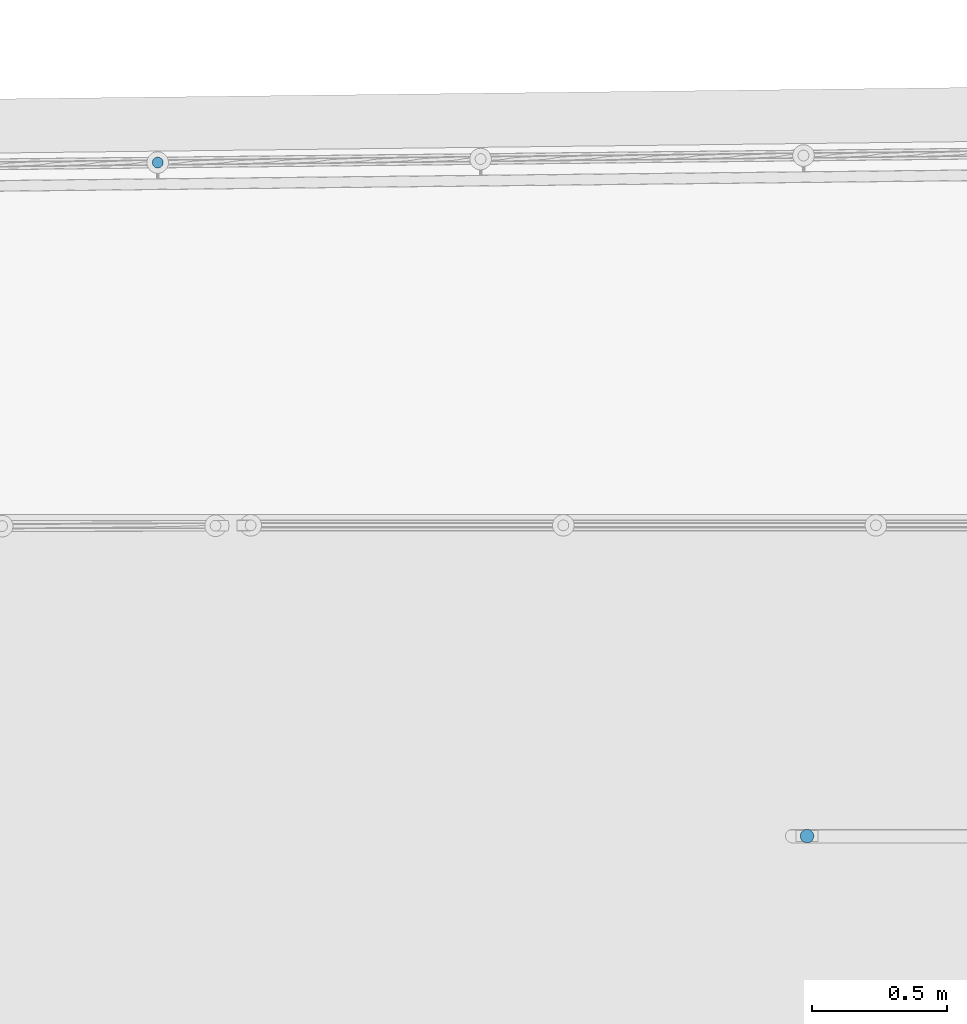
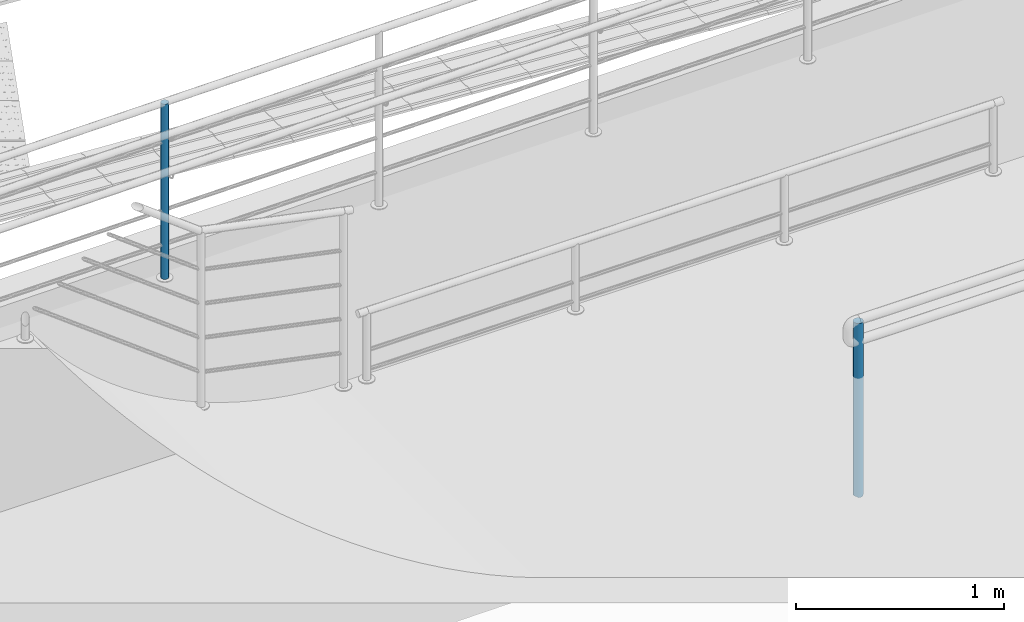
# One storey, part 35 of 237: 2 building element parts, 2 elements without a shape of their own.
"""IFC2X3 building model written with IfcOpenShell, lengths in millimetres."""

import ifcopenshell
import ifcopenshell.guid

model = None  # the IFC model being written
_history = None  # IfcOwnerHistory: only IFC2X3 demands one
_inside = {}  # id of a spatial element -> (the spatial element, [elements in it])
_under = {}  # id of a project, library or spatial element -> (it, [spatial elements below it])
_declared = {}  # id of a project -> (the project, [libraries it declares])
_typed = {}  # id of a type object -> (the type object, [elements of that type])
_made_of = {}  # id of a material, layer set ... -> (it, [elements and type objects made of it])


def new_model(schema):
    """Start an empty IFC model of exactly this schema.

    Asked for "IFC4X3", IfcOpenShell would pick the latest addendum, in which some entities
    have other attributes; the version numbers below select the first issue.
    IFC2X3 requires an IfcOwnerHistory on every rooted entity: one is made here for all.
    """
    global model, _history
    if schema == "IFC4X3":
        model = ifcopenshell.file(schema_version=(4, 3, 0, 0))
    else:
        model = ifcopenshell.file(schema=schema)
    _inside.clear()
    _under.clear()
    _declared.clear()
    _typed.clear()
    _made_of.clear()
    _history = None
    if model.schema == "IFC2X3":
        org = make("IfcOrganization", Name="unknown")
        user = make(
            "IfcPersonAndOrganization",
            ThePerson=make("IfcPerson", FamilyName="unknown"),
            TheOrganization=org,
        )
        app = make(
            "IfcApplication",
            ApplicationDeveloper=org,
            Version="unknown",
            ApplicationFullName="unknown",
            ApplicationIdentifier="unknown",
        )
        _history = make(
            "IfcOwnerHistory",
            OwningUser=user,
            OwningApplication=app,
            ChangeAction="ADDED",
            CreationDate=0,
        )
    return model


def make(cls, **values):
    """One entity of the class cls with the attributes given. An attribute that is None is left unset."""
    return model.create_entity(
        cls, **{name: value for name, value in values.items() if value is not None}
    )


def entity(cls, *values):
    """Any entity or typed value of the class cls, its attributes in the order of the schema. None: left unset."""
    e = model.create_entity(cls)
    for i, value in enumerate(values):
        if value is not None:
            e[i] = value
    return e


def rooted(cls, **values):
    """An entity with a GlobalId (a new one), such as an element, a storey or a relation."""
    return make(cls, GlobalId=ifcopenshell.guid.new(), OwnerHistory=_history, **values)


def si_unit(unit_type, name, prefix=None):
    """IfcSIUnit, for example si_unit("LENGTHUNIT", "METRE", prefix="MILLI")."""
    return make("IfcSIUnit", UnitType=unit_type, Prefix=prefix, Name=name)


def converted_unit(unit_type, name, factor, base, dimensions=None, offset=None):
    """IfcConversionBasedUnit, such as the inch: factor (a typed value) times the base unit."""
    return make(
        "IfcConversionBasedUnit"
        if offset is None
        else "IfcConversionBasedUnitWithOffset",
        ConversionOffset=offset,
        Dimensions=None
        if dimensions is None
        else entity("IfcDimensionalExponents", *dimensions),
        UnitType=unit_type,
        Name=name,
        ConversionFactor=make(
            "IfcMeasureWithUnit", ValueComponent=factor, UnitComponent=base
        ),
    )


def derived_unit(unit_type, elements):
    """IfcDerivedUnit: a product of units, each with its exponent."""
    return make(
        "IfcDerivedUnit",
        Elements=[
            make("IfcDerivedUnitElement", Unit=unit, Exponent=power)
            for unit, power in elements
        ],
        UnitType=unit_type,
    )


def money_unit(currency):
    """IfcMonetaryUnit."""
    return make("IfcMonetaryUnit", Currency=currency)


def assignment(units):
    """IfcUnitAssignment: the units of a project."""
    return None if units is None else make("IfcUnitAssignment", Units=units)


def point(xyz):
    """IfcCartesianPoint."""
    return None if xyz is None else make("IfcCartesianPoint", Coordinates=xyz)


def direction(xyz):
    """IfcDirection."""
    return None if xyz is None else make("IfcDirection", DirectionRatios=xyz)


def frame(location, z_axis=None, x_axis=None):
    """IfcAxis2Placement3D, a coordinate frame: its origin and axes. An axis left out is left unset."""
    return make(
        "IfcAxis2Placement3D",
        Location=point(location),
        Axis=direction(z_axis),
        RefDirection=direction(x_axis),
    )


def origin_with_axes():
    """The frame at (0, 0, 0) with the z axis (0, 0, 1) and the x axis (1, 0, 0) written out."""
    return frame((0.0, 0.0, 0.0), z_axis=(0.0, 0.0, 1.0), x_axis=(1.0, 0.0, 0.0))


def place(relative_to, where):
    """IfcLocalPlacement: puts the frame where relative to a parent placement (None: the world)."""
    return make(
        "IfcLocalPlacement", PlacementRelTo=relative_to, RelativePlacement=where
    )


def context(
    kind, dimensions, precision=None, world=None, true_north=None, identifier=None
):
    """IfcGeometricRepresentationContext, for example the 3D "Model" context."""
    return make(
        "IfcGeometricRepresentationContext",
        ContextIdentifier=identifier,
        ContextType=kind,
        CoordinateSpaceDimension=dimensions,
        Precision=precision,
        WorldCoordinateSystem=world,
        TrueNorth=true_north,
    )


def subcontext(parent, identifier, kind, view, scale=None):
    """IfcGeometricRepresentationSubContext, for example "Body" below "Model"."""
    return make(
        "IfcGeometricRepresentationSubContext",
        ContextIdentifier=identifier,
        ContextType=kind,
        ParentContext=parent,
        TargetScale=scale,
        TargetView=view,
    )


def project(units=None, contexts=None):
    """IfcProject with its units and contexts."""
    return rooted(
        "IfcProject",
        Name="project",
        RepresentationContexts=contexts,
        UnitsInContext=assignment(units),
    )


def spatial(cls, under=None, at=None, **own):
    """A site, building, storey or space (cls), placed at a placement, below another one or the project."""
    s = rooted(cls, ObjectPlacement=at, **own)
    if under is not None:
        _under.setdefault(under.id(), (under, []))[1].append(s)
    return s


def faces_of(points, faces, orient=None, outer=None):
    """IfcFace entities. A face is a list of loops; a loop is a list of indices into points, from 0.

    orient and outer hold one flag for each loop. By default every Orientation is true, the
    first loop of a face is its IfcFaceOuterBound and the others are IfcFaceBound.
    """
    made = []
    for i, loops in enumerate(faces):
        bounds = []
        for j, loop in enumerate(loops):
            is_outer = j == 0 if outer is None else outer[i][j]
            bounds.append(
                make(
                    "IfcFaceOuterBound" if is_outer else "IfcFaceBound",
                    Bound=make("IfcPolyLoop", Polygon=[points[k] for k in loop]),
                    Orientation=True if orient is None else orient[i][j],
                )
            )
        made.append(make("IfcFace", Bounds=bounds))
    return made


def faceted_brep(points, faces, orient=None, outer=None, voids=None):
    """IfcFacetedBrep: a solid bounded by flat faces; with voids (closed shells), ...WithVoids."""
    shared = [point(p) for p in points]
    hull = make("IfcClosedShell", CfsFaces=faces_of(shared, faces, orient, outer))
    if voids is None:
        return make("IfcFacetedBrep", Outer=hull)
    return make(
        "IfcFacetedBrepWithVoids",
        Outer=hull,
        Voids=[
            make(cls, CfsFaces=faces_of(shared, fs, o, b)) for cls, fs, o, b in voids
        ],
    )


def shape(context_of_items, identifier, shape_type, items):
    """IfcShapeRepresentation: the items that make up one representation, for example the "Body"."""
    return make(
        "IfcShapeRepresentation",
        ContextOfItems=context_of_items,
        RepresentationIdentifier=identifier,
        RepresentationType=shape_type,
        Items=items,
    )


def material(Name=None, Category=None):
    """IfcMaterial."""
    return make("IfcMaterial", Name=Name, Category=Category)


def made_of(thing, what):
    """Note that an element or type object is made of a material, layer set ...; save() writes the relation."""
    if what is not None:
        _made_of.setdefault(what.id(), (what, []))[1].append(thing)
    return thing


def type_object(cls, material=None, **own):
    """A type object (cls), such as IfcWallType, which elements share."""
    return made_of(rooted(cls, **own), material)


def element(
    cls,
    number,
    at=None,
    inside=None,
    cuts=None,
    type_object=None,
    material=None,
    context=None,
    identifier="Body",
    shape_type=None,
    held_by="IfcProductDefinitionShape",
    body=None,
    shapes=None,
    **own,
):
    """One element of the class cls, such as IfcWall. Its Tag is "e" and its number.

    at: its placement. inside: the storey or other place that contains it. cuts: it is an
    opening in that element (IfcRelVoidsElement). A single representation is given by context,
    identifier, shape_type and body (its items); several are given by shapes. held_by: the class
    of the entity that holds the representations. save() writes the other relations.
    """
    e = rooted(cls, Tag="e%d" % number, ObjectPlacement=at, **own)
    if body is not None:
        shapes = [shape(context, identifier, shape_type, body)]
    if shapes is not None:
        e.Representation = make(held_by, Representations=shapes)
    if inside is not None:
        _inside.setdefault(inside.id(), (inside, []))[1].append(e)
    if cuts is not None:
        rooted(
            "IfcRelVoidsElement", RelatingBuildingElement=cuts, RelatedOpeningElement=e
        )
    if type_object is not None:
        _typed.setdefault(type_object.id(), (type_object, []))[1].append(e)
    return made_of(e, material)


def aggregate(whole, parts):
    """IfcRelAggregates: a whole, such as a stair, and the parts it consists of."""
    return rooted("IfcRelAggregates", RelatingObject=whole, RelatedObjects=parts)


def save(model, path):
    """Write the relations noted so far, then the file.

    IfcRelAggregates (storeys below a building ...), IfcRelContainedInSpatialStructure (elements
    in a storey), IfcRelDefinesByType, IfcRelAssociatesMaterial and IfcRelDeclares: one each for
    every whole, place, type object, material and project.
    """
    for whole, parts in _under.values():
        aggregate(whole, parts)
    for where, things in _inside.values():
        rooted(
            "IfcRelContainedInSpatialStructure",
            RelatedElements=things,
            RelatingStructure=where,
        )
    for kind, things in _typed.values():
        rooted("IfcRelDefinesByType", RelatedObjects=things, RelatingType=kind)
    for what, things in _made_of.values():
        rooted("IfcRelAssociatesMaterial", RelatedObjects=things, RelatingMaterial=what)
    for by, libraries in _declared.values():
        rooted("IfcRelDeclares", RelatingContext=by, RelatedDefinitions=libraries)
    model.write(path)


model = new_model("IFC2X3")

# Units and contexts
model_context = context("Model", 3, precision=0.01, world=origin_with_axes(), true_north=direction((0.0, 1.0)))
body_context = subcontext(model_context, "Body", "Model", "MODEL_VIEW")
ifc_project = project(units=[si_unit("LENGTHUNIT", "METRE", prefix="MILLI"), si_unit("AREAUNIT", "SQUARE_METRE"), si_unit("VOLUMEUNIT", "CUBIC_METRE"), converted_unit("PLANEANGLEUNIT", "DEGREE", entity("IfcPlaneAngleMeasure", 0.0174532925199), si_unit("PLANEANGLEUNIT", "RADIAN"), dimensions=[0, 0, 0, 0, 0, 0, 0]), money_unit("USD"), converted_unit("TIMEUNIT", "Year", entity("IfcTimeMeasure", 31556926.0), si_unit("TIMEUNIT", "SECOND"), dimensions=[0, 0, 1, 0, 0, 0, 0]), si_unit("MASSUNIT", "GRAM", prefix="KILO"), si_unit("THERMODYNAMICTEMPERATUREUNIT", "DEGREE_CELSIUS"), si_unit("LUMINOUSINTENSITYUNIT", "LUMEN"), si_unit("ENERGYUNIT", "JOULE", prefix="MEGA"), derived_unit("THERMALCONDUCTANCEUNIT", [(si_unit("POWERUNIT", "WATT"), 1), (si_unit("LENGTHUNIT", "METRE"), -1), (si_unit("THERMODYNAMICTEMPERATUREUNIT", "KELVIN"), -1)]), derived_unit("SPECIFICHEATCAPACITYUNIT", [(si_unit("ENERGYUNIT", "JOULE"), 1), (si_unit("MASSUNIT", "GRAM", prefix="KILO"), -1), (si_unit("THERMODYNAMICTEMPERATUREUNIT", "KELVIN"), -1)]), derived_unit("MASSDENSITYUNIT", [(si_unit("MASSUNIT", "GRAM", prefix="KILO"), 1), (si_unit("VOLUMEUNIT", "CUBIC_METRE"), -1)])], contexts=[model_context])

# Site, building, storey
site_placement = place(None, origin_with_axes())
site = spatial("IfcSite", under=ifc_project, at=site_placement, Name="Local", CompositionType="ELEMENT")
building_placement = place(site_placement, origin_with_axes())
building = spatial("IfcBuilding", under=site, at=building_placement, Name="Construção", CompositionType="ELEMENT")
storey_placement = place(building_placement, origin_with_axes())
storey = spatial("IfcBuildingStorey", under=building, at=storey_placement, Name="Pavimento Térreo", CompositionType="ELEMENT", Elevation=0.0)

# Railing, building element part
railing_type = type_object("IfcRailingType", Name="Tipo de Guarda-Corpo", PredefinedType="NOTDEFINED")
railing_1_placement = place(storey_placement, frame((70326.6870103, 28675.2458388, -1357.10819655), z_axis=(0.0, 0.0, 1.0), x_axis=(1.0, 0.0, 0.0)))
railing_1 = element("IfcRailing", 1, at=railing_1_placement, inside=storey, type_object=railing_type, Name="Guarda-Corpo - 004", PredefinedType="NOTDEFINED")
ifc_material_1 = material(Name="Aço - Inoxidável")
building_element_part_1_placement = place(railing_1_placement, origin_with_axes())
building_element_part_1 = element("IfcBuildingElementPart", 2, at=building_element_part_1_placement, material=ifc_material_1, Name="Aço - Inoxidável", context=body_context, shape_type="Brep", body=[
    faceted_brep([(-16664.9919402, 6541.79872582, 5.0), (-16668.4680029, 6542.06478072, 5.0), (-16668.4680029, 6542.06478072, 1030.0), (-16664.9919402, 6541.79872582, 1030.0), (-16671.9374565, 6541.72318169, 5.0), (-16661.6148866, 6540.93310093, 5.0), (-16658.4394522, 6539.49420762, 5.0), (-16655.5621209, 6537.52576593, 5.0), (-16653.0703192, 6535.08758597, 5.0), (-16651.039759, 6532.25375061, 5.0), (-16649.5321379, 6529.1103645, 5.0), (-16648.5932642, 6525.75293783, 5.0), (-16648.2516652, 6522.28348431, 5.0), (-16648.5177201, 6518.80742154, 5.0), (-16649.383345, 6515.43036793, 5.0), (-16650.8222383, 6512.25493353, 5.0), (-16652.79068, 6509.37760231, 5.0), (-16655.2288599, 6506.88580054, 5.0), (-16658.0626953, 6504.85524034, 5.0), (-16661.2060814, 6503.34761925, 5.0), (-16664.5635081, 6502.40874559, 5.0), (-16668.0329616, 6502.06714656, 5.0), (-16671.5090244, 6502.33320146, 5.0), (-16674.886078, 6503.19882635, 5.0), (-16678.0615124, 6504.63771966, 5.0), (-16680.9388436, 6506.60616135, 5.0), (-16683.4306454, 6509.04434131, 5.0), (-16685.4612056, 6511.87817667, 5.0), (-16686.9688267, 6515.02156278, 5.0), (-16687.9077003, 6518.37898945, 5.0), (-16688.2492994, 6521.84844297, 5.0), (-16687.9832445, 6525.32450574, 5.0), (-16687.1176196, 6528.70155935, 5.0), (-16685.6787262, 6531.87699375, 5.0), (-16683.7102846, 6534.75432497, 5.0), (-16681.2721046, 6537.24612674, 5.0), (-16678.4382692, 6539.27668694, 5.0), (-16675.2948831, 6540.78430803, 5.0), (-16671.9374565, 6541.72318169, 1030.0), (-16648.5177201, 6518.80742154, 1030.0), (-16648.2516652, 6522.28348431, 1030.0), (-16648.5932642, 6525.75293783, 1030.0), (-16649.5321379, 6529.1103645, 1030.0), (-16651.039759, 6532.25375061, 1030.0), (-16653.0703192, 6535.08758597, 1030.0), (-16655.5621209, 6537.52576593, 1030.0), (-16658.4394522, 6539.49420762, 1030.0), (-16661.6148866, 6540.93310093, 1030.0), (-16675.2948831, 6540.78430803, 1030.0), (-16678.4382692, 6539.27668694, 1030.0), (-16681.2721046, 6537.24612674, 1030.0), (-16683.7102846, 6534.75432497, 1030.0), (-16685.6787262, 6531.87699375, 1030.0), (-16687.1176196, 6528.70155935, 1030.0), (-16687.9832445, 6525.32450574, 1030.0), (-16688.2492994, 6521.84844297, 1030.0), (-16687.9077003, 6518.37898945, 1030.0), (-16686.9688267, 6515.02156278, 1030.0), (-16685.4612056, 6511.87817667, 1030.0), (-16683.4306454, 6509.04434131, 1030.0), (-16680.9388436, 6506.60616135, 1030.0), (-16678.0615124, 6504.63771966, 1030.0), (-16674.886078, 6503.19882635, 1030.0), (-16671.5090244, 6502.33320146, 1030.0), (-16668.0329616, 6502.06714656, 1030.0), (-16664.5635081, 6502.40874559, 1030.0), (-16661.2060814, 6503.34761925, 1030.0), (-16658.0626953, 6504.85524034, 1030.0), (-16655.2288599, 6506.88580054, 1030.0), (-16652.79068, 6509.37760231, 1030.0), (-16650.8222383, 6512.25493353, 1030.0), (-16649.383345, 6515.43036793, 1030.0)], [[[0, 1, 2, 3]], [[4, 1, 0, 5, 6, 7, 8, 9, 10, 11, 12, 13, 14, 15, 16, 17, 18, 19, 20, 21, 22, 23, 24, 25, 26, 27, 28, 29, 30, 31, 32, 33, 34, 35, 36, 37]], [[1, 4, 38, 2]], [[39, 40, 41, 42, 43, 44, 45, 46, 47, 3, 2, 38, 48, 49, 50, 51, 52, 53, 54, 55, 56, 57, 58, 59, 60, 61, 62, 63, 64, 65, 66, 67, 68, 69, 70, 71]], [[5, 0, 3, 47]], [[6, 5, 47, 46]], [[7, 6, 46, 45]], [[8, 7, 45, 44]], [[9, 8, 44, 43]], [[10, 9, 43, 42]], [[11, 10, 42, 41]], [[12, 11, 41, 40]], [[13, 12, 40, 39]], [[14, 13, 39, 71]], [[15, 14, 71, 70]], [[16, 15, 70, 69]], [[17, 16, 69, 68]], [[18, 17, 68, 67]], [[19, 18, 67, 66]], [[20, 19, 66, 65]], [[21, 20, 65, 64]], [[22, 21, 64, 63]], [[23, 22, 63, 62]], [[24, 23, 62, 61]], [[25, 24, 61, 60]], [[26, 25, 60, 59]], [[27, 26, 59, 58]], [[28, 27, 58, 57]], [[29, 28, 57, 56]], [[30, 29, 56, 55]], [[31, 30, 55, 54]], [[32, 31, 54, 53]], [[33, 32, 53, 52]], [[34, 33, 52, 51]], [[35, 34, 51, 50]], [[36, 35, 50, 49]], [[37, 36, 49, 48]], [[4, 37, 48, 38]]]),
])
aggregate(railing_1, [building_element_part_1])

railing_2_placement = place(storey_placement, frame((56020.9807317, 32685.2089387, -1957.10819431), z_axis=(0.0, 0.0, 1.0), x_axis=(1.0, 0.0, 0.0)))
railing_2 = element("IfcRailing", 3, at=railing_2_placement, inside=storey, type_object=railing_type, Name="Guarda-Corpo - 001", PredefinedType="NOTDEFINED")
ifc_material_2 = material(Name="Aço - Estrutural")
building_element_part_2_placement = place(railing_2_placement, origin_with_axes())
building_element_part_2 = element("IfcBuildingElementPart", 4, at=building_element_part_2_placement, material=ifc_material_2, Name="Aço - Estrutural", context=body_context, shape_type="Brep", body=[
    faceted_brep([(54.8573512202, 0.0, 5.0), (56.0696902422, 0.848888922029, 5.0), (56.0696902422, 0.848888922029, 1020.0), (52.5, -1.65063509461, 1020.0), (52.5, -1.65063509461, 0.0), (54.8573512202, 0.0, 0.0), (25.1426487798, 0.0, 5.0), (23.9303097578, 0.848888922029, 5.0), (20.848888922, 3.93030975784, 5.0), (18.3493649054, 7.5, 5.0), (16.5076844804, 11.4494964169, 5.0), (15.3798061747, 15.6587955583, 5.0), (15.0, 20.0, 5.0), (15.3798061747, 24.3412044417, 5.0), (16.5076844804, 28.5505035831, 5.0), (18.3493649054, 32.5, 5.0), (20.848888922, 36.0696902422, 5.0), (23.9303097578, 39.151111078, 5.0), (25.1426487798, 40.0, 5.0), (54.8573512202, 40.0, 5.0), (56.0696902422, 39.151111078, 5.0), (59.151111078, 36.0696902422, 5.0), (61.6506350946, 32.5, 5.0), (63.4923155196, 28.5505035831, 5.0), (64.6201938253, 24.3412044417, 5.0), (65.0, 20.0, 5.0), (64.6201938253, 15.6587955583, 5.0), (63.4923155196, 11.4494964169, 5.0), (61.6506350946, 7.5, 5.0), (59.151111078, 3.93030975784, 5.0), (59.151111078, 3.93030975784, 1020.0), (15.3798061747, 24.3412044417, 1020.0), (15.0, 20.0, 1020.0), (15.3798061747, 15.6587955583, 1020.0), (16.5076844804, 11.4494964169, 1020.0), (18.3493649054, 7.5, 1020.0), (20.848888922, 3.93030975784, 1020.0), (23.9303097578, 0.848888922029, 1020.0), (27.5, -1.65063509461, 1020.0), (31.4494964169, -3.49231551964, 1020.0), (35.6587955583, -4.6201938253, 1020.0), (40.0, -5.0, 1020.0), (44.3412044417, -4.6201938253, 1020.0), (48.5505035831, -3.49231551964, 1020.0), (61.6506350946, 7.5, 1020.0), (63.4923155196, 11.4494964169, 1020.0), (64.6201938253, 15.6587955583, 1020.0), (65.0, 20.0, 1020.0), (64.6201938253, 24.3412044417, 1020.0), (63.4923155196, 28.5505035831, 1020.0), (61.6506350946, 32.5, 1020.0), (59.151111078, 36.0696902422, 1020.0), (56.0696902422, 39.151111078, 1020.0), (52.5, 41.6506350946, 1020.0), (48.5505035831, 43.4923155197, 1020.0), (44.3412044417, 44.6201938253, 1020.0), (40.0, 45.0, 1020.0), (35.6587955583, 44.6201938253, 1020.0), (31.4494964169, 43.4923155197, 1020.0), (27.5, 41.6506350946, 1020.0), (23.9303097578, 39.151111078, 1020.0), (20.848888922, 36.0696902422, 1020.0), (18.3493649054, 32.5, 1020.0), (16.5076844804, 28.5505035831, 1020.0), (48.5505035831, -3.49231551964, 0.0), (25.1426487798, 0.0, 0.0), (44.3412044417, -4.6201938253, 0.0), (40.0, -5.0, 0.0), (35.6587955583, -4.6201938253, 0.0), (31.4494964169, -3.49231551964, 0.0), (27.5, -1.65063509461, 0.0), (27.5, 41.6506350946, 0.0), (25.1426487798, 40.0, 0.0), (54.8573512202, 40.0, 0.0), (52.5, 41.6506350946, 0.0), (48.5505035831, 43.4923155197, 0.0), (44.3412044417, 44.6201938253, 0.0), (40.0, 45.0, 0.0), (35.6587955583, 44.6201938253, 0.0), (31.4494964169, 43.4923155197, 0.0)], [[[0, 1, 2, 3, 4, 5]], [[1, 0, 6, 7, 8, 9, 10, 11, 12, 13, 14, 15, 16, 17, 18, 19, 20, 21, 22, 23, 24, 25, 26, 27, 28, 29]], [[1, 29, 30, 2]], [[31, 32, 33, 34, 35, 36, 37, 38, 39, 40, 41, 42, 43, 3, 2, 30, 44, 45, 46, 47, 48, 49, 50, 51, 52, 53, 54, 55, 56, 57, 58, 59, 60, 61, 62, 63]], [[43, 64, 4, 3]], [[65, 5, 4, 64, 66, 67, 68, 69, 70]], [[0, 5, 65, 6]], [[6, 65, 70, 38, 37, 7]], [[8, 7, 37, 36]], [[9, 8, 36, 35]], [[10, 9, 35, 34]], [[11, 10, 34, 33]], [[12, 11, 33, 32]], [[13, 12, 32, 31]], [[14, 13, 31, 63]], [[15, 14, 63, 62]], [[16, 15, 62, 61]], [[17, 16, 61, 60]], [[18, 17, 60, 59, 71, 72]], [[73, 19, 18, 72]], [[19, 73, 74, 53, 52, 20]], [[21, 20, 52, 51]], [[22, 21, 51, 50]], [[23, 22, 50, 49]], [[24, 23, 49, 48]], [[25, 24, 48, 47]], [[26, 25, 47, 46]], [[27, 26, 46, 45]], [[28, 27, 45, 44]], [[29, 28, 44, 30]], [[38, 70, 69, 39]], [[39, 69, 68, 40]], [[40, 68, 67, 41]], [[41, 67, 66, 42]], [[42, 66, 64, 43]], [[53, 74, 75, 54]], [[54, 75, 76, 55]], [[55, 76, 77, 56]], [[56, 77, 78, 57]], [[57, 78, 79, 58]], [[58, 79, 71, 59]], [[73, 72, 71, 79, 78, 77, 76, 75, 74]]]),
])
aggregate(railing_2, [building_element_part_2])

save(model, "model.ifc")
